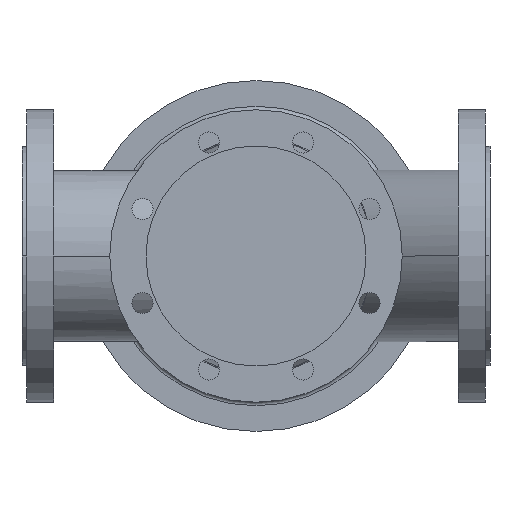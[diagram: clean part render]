
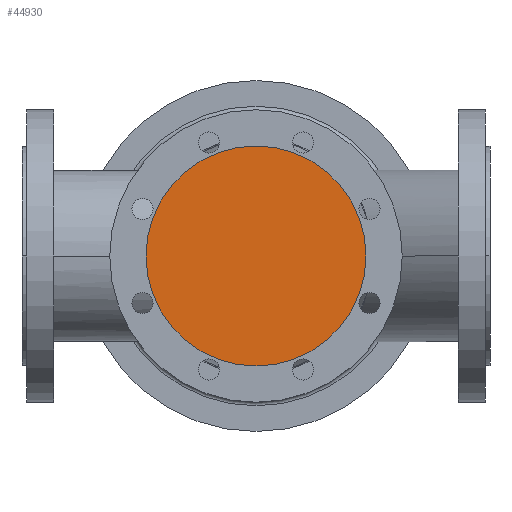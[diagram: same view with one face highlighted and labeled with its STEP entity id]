
A CAD part, front view. The second image highlights one B-rep face of the part: STEP entity #44930.
In plain terms, the highlighted planar face has unit normal (0, -1, 0).
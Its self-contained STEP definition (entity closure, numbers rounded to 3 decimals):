
#7160=CARTESIAN_POINT('',(106.,-200.,0.));
#7170=VERTEX_POINT('',#7160);
#7200=CARTESIAN_POINT('',(200.,-200.,0.));
#7210=DIRECTION('',(0.,1.,0.));
#7220=DIRECTION('',(1.,0.,0.));
#7230=AXIS2_PLACEMENT_3D('',#7200,#7210,#7220);
#7240=CIRCLE('',#7230,94.);
#7250=CARTESIAN_POINT('',(294.,-200.,0.));
#7260=VERTEX_POINT('',#7250);
#7270=EDGE_CURVE('',#7260,#7170,#7240,.T.);
#44830=CARTESIAN_POINT('',(247.,-200.,0.));
#44840=DIRECTION('',(0.,-1.,0.));
#44850=DIRECTION('',(-1.,0.,0.));
#44860=AXIS2_PLACEMENT_3D('',#44830,#44840,#44850);
#44870=PLANE('',#44860);
#44880=ORIENTED_EDGE('',*,*,#7270,.F.);
#44890=EDGE_CURVE('',#7170,#7260,#7240,.T.);
#44900=ORIENTED_EDGE('',*,*,#44890,.F.);
#44910=EDGE_LOOP('',(#44900,#44880));
#44920=FACE_OUTER_BOUND('',#44910,.T.);
#44930=ADVANCED_FACE('',(#44920),#44870,.T.);
